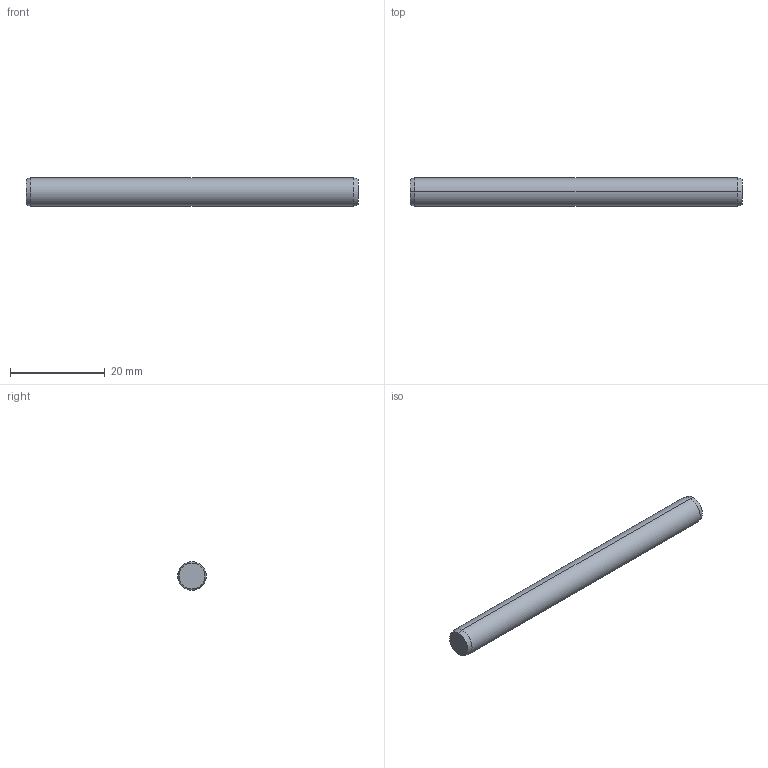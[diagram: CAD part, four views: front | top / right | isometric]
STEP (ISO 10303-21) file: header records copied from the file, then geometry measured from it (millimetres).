
FILE_DESCRIPTION (( 'STEP AP203' ), '1' );
FILE_NAME ('P1206.060-070.step', '2017-06-14T08:23:58', ( 'User' ), ( '' ), 'SwSTEP 2.0', 'SolidWorks 2009', '' );
FILE_SCHEMA (( 'CONFIG_CONTROL_DESIGN' ));
Length unit declared in the file: millimetre
Products named in the file (1): P1206.060-070
Bounding box: 70 x 6 x 6 mm (x, y, z)
Volume: 1974.3 mm3; surface area: 1366 mm2
Topology: 1 solids, 1 shells, 8 faces, 14 edges, 8 vertices
Faces by surface type: cone 4, cylinder 2, plane 2
Entity records: 271 total; most frequent: DIRECTION 40, CARTESIAN_POINT 31, ORIENTED_EDGE 28, AXIS2_PLACEMENT_3D 17, EDGE_CURVE 14, FACE_OUTER_BOUND 8, CIRCLE 8, ADVANCED_FACE 8
